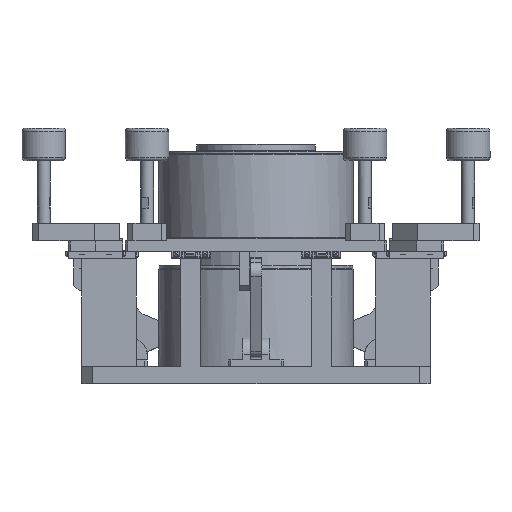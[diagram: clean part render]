
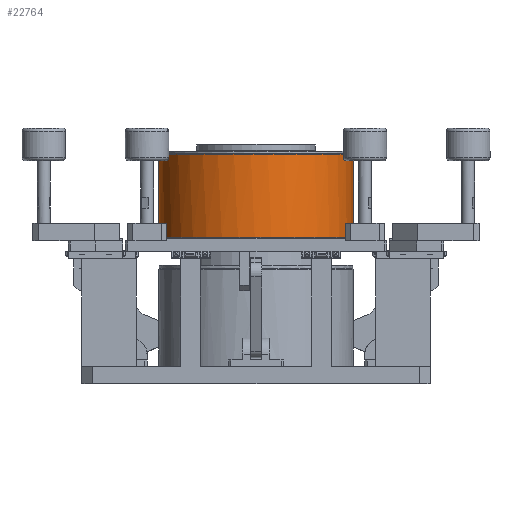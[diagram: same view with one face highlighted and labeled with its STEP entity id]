
A CAD part, left-side view. The second image highlights one B-rep face of the part: STEP entity #22764.
In plain terms, the highlighted cylindrical face has radius 89.5 mm (diameter 179 mm), a full revolution.
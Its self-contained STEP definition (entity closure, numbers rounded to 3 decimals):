
#5616=FACE_BOUND('',#8005,.T.);
#6065=CYLINDRICAL_SURFACE('',#24335,89.5);
#6503=FACE_OUTER_BOUND('',#8004,.T.);
#8004=EDGE_LOOP('',(#15590));
#8005=EDGE_LOOP('',(#15591));
#9906=CIRCLE('',#24336,89.5);
#9907=CIRCLE('',#24337,89.5);
#10400=VERTEX_POINT('',#33300);
#10401=VERTEX_POINT('',#33302);
#12471=EDGE_CURVE('',#10400,#10400,#9906,.T.);
#12472=EDGE_CURVE('',#10401,#10401,#9907,.T.);
#15590=ORIENTED_EDGE('',*,*,#12471,.F.);
#15591=ORIENTED_EDGE('',*,*,#12472,.F.);
#22764=ADVANCED_FACE('',(#6503,#5616),#6065,.T.);
#24335=AXIS2_PLACEMENT_3D('',#33299,#26598,#26599);
#24336=AXIS2_PLACEMENT_3D('',#33301,#26600,#26601);
#24337=AXIS2_PLACEMENT_3D('',#33303,#26602,#26603);
#26598=DIRECTION('center_axis',(0.,0.,
1.));
#26599=DIRECTION('ref_axis',(0.,-1.,0.));
#26600=DIRECTION('center_axis',(0.,0.,
1.));
#26601=DIRECTION('ref_axis',(0.,1.,0.));
#26602=DIRECTION('center_axis',(0.,0.,
-1.));
#26603=DIRECTION('ref_axis',(0.,1.,0.));
#33299=CARTESIAN_POINT('Origin',(-126.634,81.137,197.25));
#33300=CARTESIAN_POINT('',(-121.884,170.511,203.));
#33301=CARTESIAN_POINT('Origin',(-126.634,81.137,203.));
#33302=CARTESIAN_POINT('',(-126.634,170.637,126.5));
#33303=CARTESIAN_POINT('Origin',(-126.634,81.137,126.5));
